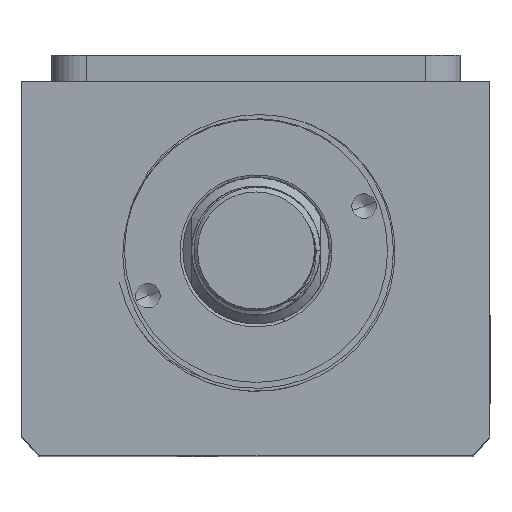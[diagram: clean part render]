
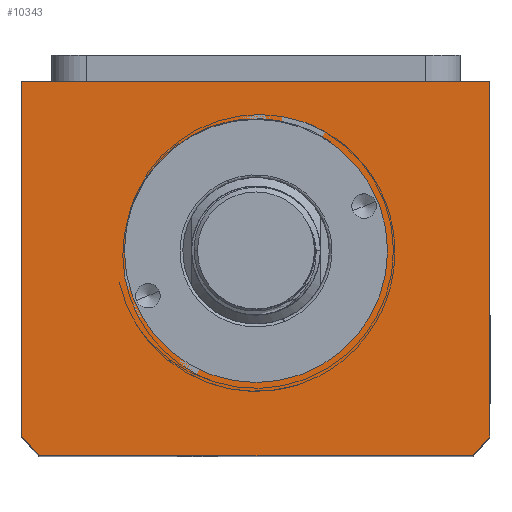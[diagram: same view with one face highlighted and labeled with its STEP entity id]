
A CAD part, top view. The second image highlights one B-rep face of the part: STEP entity #10343.
In plain terms, the highlighted planar face has unit normal (0, 0, 1).
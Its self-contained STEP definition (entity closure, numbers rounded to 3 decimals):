
#84 = ORIENTED_EDGE ( 'NONE', *, *, #2225, .T. ) ;
#325 = ORIENTED_EDGE ( 'NONE', *, *, #11279, .F. ) ;
#437 = CARTESIAN_POINT ( 'NONE',  ( -40., 32., 110. ) ) ;
#467 = EDGE_CURVE ( 'NONE', #1770, #5749, #6623, .T. ) ;
#765 = VERTEX_POINT ( 'NONE', #5029 ) ;
#822 = FACE_OUTER_BOUND ( 'NONE', #12900, .T. ) ;
#977 = VECTOR ( 'NONE', #2536, 1000. ) ;
#1009 = AXIS2_PLACEMENT_3D ( 'NONE', #12088, #13122, #7848 ) ;
#1060 = ORIENTED_EDGE ( 'NONE', *, *, #5940, .F. ) ;
#1087 = CARTESIAN_POINT ( 'NONE',  ( -40., -32., 110. ) ) ;
#1446 = VERTEX_POINT ( 'NONE', #6220 ) ;
#1509 = DIRECTION ( 'NONE',  ( 0., -1., 0. ) ) ;
#1522 = CARTESIAN_POINT ( 'NONE',  ( 0., 3., 110. ) ) ;
#1572 = ORIENTED_EDGE ( 'NONE', *, *, #10725, .T. ) ;
#1770 = VERTEX_POINT ( 'NONE', #5306 ) ;
#1819 = CARTESIAN_POINT ( 'NONE',  ( 0., 3., 110. ) ) ;
#2225 = EDGE_CURVE ( 'NONE', #6610, #6943, #4370, .T. ) ;
#2442 = VERTEX_POINT ( 'NONE', #4798 ) ;
#2465 = DIRECTION ( 'NONE',  ( 0., 1., 0. ) ) ;
#2497 = VECTOR ( 'NONE', #1509, 1000. ) ;
#2536 = DIRECTION ( 'NONE',  ( -1., 0., 0. ) ) ;
#2591 = DIRECTION ( 'NONE',  ( 1., 0., 0. ) ) ;
#2825 = CARTESIAN_POINT ( 'NONE',  ( 40., -28.639, 110. ) ) ;
#2887 = AXIS2_PLACEMENT_3D ( 'NONE', #1522, #9045, #2591 ) ;
#2903 = DIRECTION ( 'NONE',  ( 1., 0., 0. ) ) ;
#3065 = ORIENTED_EDGE ( 'NONE', *, *, #8437, .T. ) ;
#3656 = CARTESIAN_POINT ( 'NONE',  ( 0., 3., 110. ) ) ;
#3829 = FACE_BOUND ( 'NONE', #5561, .T. ) ;
#3852 = LINE ( 'NONE', #8984, #977 ) ;
#4370 = LINE ( 'NONE', #13173, #5052 ) ;
#4526 = EDGE_CURVE ( 'NONE', #2442, #1770, #12379, .T. ) ;
#4738 = DIRECTION ( 'NONE',  ( 1., 0., 0. ) ) ;
#4798 = CARTESIAN_POINT ( 'NONE',  ( -40., -28.639, 110. ) ) ;
#5005 = CARTESIAN_POINT ( 'NONE',  ( 37.094, -32., 110. ) ) ;
#5016 = CIRCLE ( 'NONE', #5770, 22.5 ) ;
#5029 = CARTESIAN_POINT ( 'NONE',  ( -40., 32., 110. ) ) ;
#5052 = VECTOR ( 'NONE', #2465, 1000. ) ;
#5255 = EDGE_CURVE ( 'NONE', #765, #2442, #5383, .T. ) ;
#5306 = CARTESIAN_POINT ( 'NONE',  ( -37.094, -32., 110. ) ) ;
#5319 = CARTESIAN_POINT ( 'NONE',  ( 0., 3., 110. ) ) ;
#5333 = AXIS2_PLACEMENT_3D ( 'NONE', #1819, #9355, #2903 ) ;
#5383 = LINE ( 'NONE', #437, #2497 ) ;
#5535 = CIRCLE ( 'NONE', #5687, 22.5 ) ;
#5561 = EDGE_LOOP ( 'NONE', ( #325, #1060 ) ) ;
#5687 = AXIS2_PLACEMENT_3D ( 'NONE', #5319, #12813, #6401 ) ;
#5749 = VERTEX_POINT ( 'NONE', #5005 ) ;
#5770 = AXIS2_PLACEMENT_3D ( 'NONE', #3656, #11149, #4738 ) ;
#5940 = EDGE_CURVE ( 'NONE', #9681, #1446, #5535, .T. ) ;
#6220 = CARTESIAN_POINT ( 'NONE',  ( 22.5, 3., 110. ) ) ;
#6362 = ORIENTED_EDGE ( 'NONE', *, *, #467, .T. ) ;
#6401 = DIRECTION ( 'NONE',  ( 1., 0., 0. ) ) ;
#6610 = VERTEX_POINT ( 'NONE', #2825 ) ;
#6623 = LINE ( 'NONE', #1087, #12334 ) ;
#6770 = PLANE ( 'NONE',  #1009 ) ;
#6943 = VERTEX_POINT ( 'NONE', #10779 ) ;
#7029 = ORIENTED_EDGE ( 'NONE', *, *, #4526, .T. ) ;
#7848 = DIRECTION ( 'NONE',  ( 1., 0., 0. ) ) ;
#8437 = EDGE_CURVE ( 'NONE', #6943, #765, #3852, .T. ) ;
#8984 = CARTESIAN_POINT ( 'NONE',  ( -40., 32., 110. ) ) ;
#9034 = CIRCLE ( 'NONE', #5333, 51. ) ;
#9045 = DIRECTION ( 'NONE',  ( 0., 0., 1. ) ) ;
#9355 = DIRECTION ( 'NONE',  ( 0., 0., 1. ) ) ;
#9504 = ORIENTED_EDGE ( 'NONE', *, *, #5255, .T. ) ;
#9681 = VERTEX_POINT ( 'NONE', #12651 ) ;
#10343 = ADVANCED_FACE ( 'NONE', ( #3829, #822 ), #6770, .T. ) ;
#10725 = EDGE_CURVE ( 'NONE', #5749, #6610, #9034, .T. ) ;
#10779 = CARTESIAN_POINT ( 'NONE',  ( 40., 32., 110. ) ) ;
#11149 = DIRECTION ( 'NONE',  ( 0., 0., 1. ) ) ;
#11279 = EDGE_CURVE ( 'NONE', #1446, #9681, #5016, .T. ) ;
#12088 = CARTESIAN_POINT ( 'NONE',  ( 0., 0., 110. ) ) ;
#12334 = VECTOR ( 'NONE', #13046, 1000. ) ;
#12379 = CIRCLE ( 'NONE', #2887, 51. ) ;
#12651 = CARTESIAN_POINT ( 'NONE',  ( -22.5, 3., 110. ) ) ;
#12813 = DIRECTION ( 'NONE',  ( 0., 0., 1. ) ) ;
#12900 = EDGE_LOOP ( 'NONE', ( #9504, #7029, #6362, #1572, #84, #3065 ) ) ;
#13046 = DIRECTION ( 'NONE',  ( 1., 0., 0. ) ) ;
#13122 = DIRECTION ( 'NONE',  ( 0., 0., 1. ) ) ;
#13173 = CARTESIAN_POINT ( 'NONE',  ( 40., 32., 110. ) ) ;
